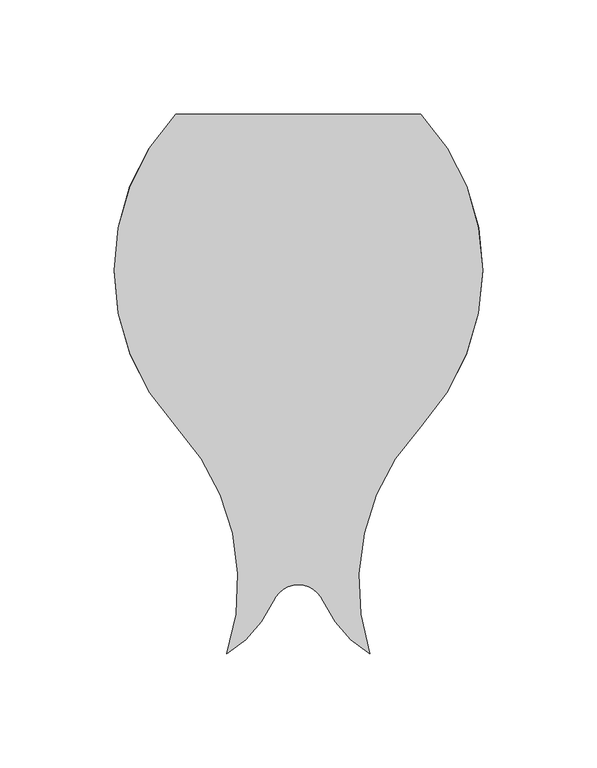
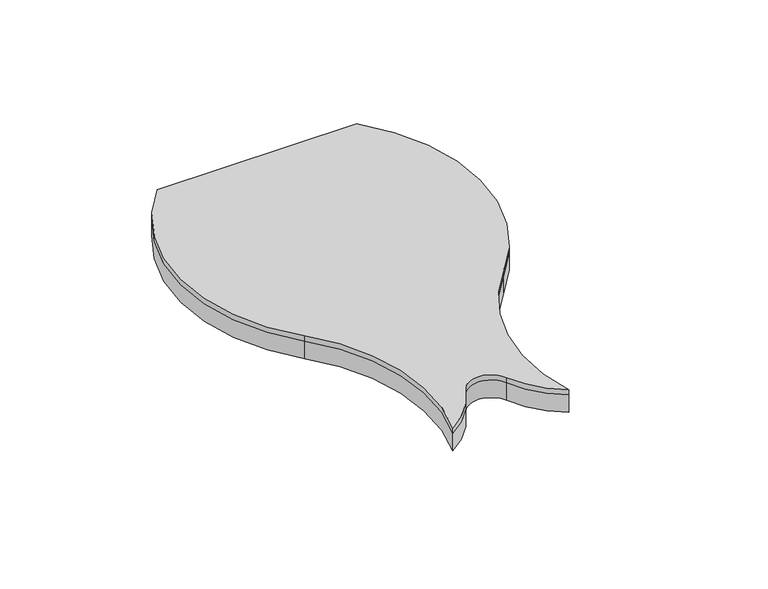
"""IFC4 building model written with IfcOpenShell, lengths in millimetres: proxy geometry, FilzFelt_Fish_Block : Fish Block."""

from ifc_helpers import new_model, si_unit, frame, origin, place, context, project, spatial, polyline, circle_curve, source, transform, mapped, element, save
from ifc_brep_helpers import plane_surface, cylinder_surface, revolved_surface, advanced_brep


def specialty_equipment_ba96d7a5(model_context):
    return source(origin(), model_context, "Body", "AdvancedBrep", [
        advanced_brep(
        [(53.5486457, -68.6120133, 10.0210937), (31.2619065, -168.1141956, 10.0210937), (11.0103348, -145.0347036, 10.0210937), (-11.0103348, -145.0347036, 10.0210937), (-31.2619065, -168.1141956, 10.0210937), (-53.5486457, -68.6120133, 10.0210937), (-53.7372709, 68.4105946, 10.0210937), (53.7372709, 68.4105946, 10.0210937), (-53.5486457, -68.6120133, 12.9976563), (-31.2619065, -168.1141956, 12.9976563), (-11.0103348, -145.0347036, 12.9976563), (11.0103348, -145.0347036, 12.9976563), (31.2619065, -168.1141956, 12.9976563), (53.5486457, -68.6120133, 12.9976563), (80.7142226, 0.0, 12.9976563), (53.7372709, 68.4105946, 12.9976563), (-53.7372709, 68.4105946, 12.9976563), (-80.7142226, 0.0, 12.9976563)],
        [
            (0, 1, circle_curve(frame((126.6124317, -137.2240266, 10.0210937), z_axis=(0.0, 0.0, 1.0), x_axis=(-1.0, 0.0, 0.0)), 100.2293629)),
            (1, 2, circle_curve(frame((57.9263497, -124.2921115, 10.0210937), z_axis=(0.0, 0.0, -1.0), x_axis=(-1.0, 0.0, 0.0)), 51.2968574)),
            (2, 3, circle_curve(frame((0.0, -149.9026124, 10.0210937), z_axis=(0.0, 0.0, 1.0), x_axis=(-1.0, 0.0, 0.0)), 12.0384388)),
            (3, 4, circle_curve(frame((-57.9263497, -124.2921115, 10.0210937), z_axis=(0.0, 0.0, -1.0), x_axis=(-1.0, 0.0, 0.0)), 51.2968574)),
            (4, 5, circle_curve(frame((-126.6124317, -137.2240266, 10.0210937), z_axis=(0.0, 0.0, 1.0), x_axis=(-1.0, 0.0, 0.0)), 100.2293629)),
            (5, 6, circle_curve(frame((19.5151403, 0.0, 10.0210937), z_axis=(0.0, 0.0, -1.0), x_axis=(-1.0, 0.0, 0.0)), 100.2293629)),
            (6, 7),
            (7, 0, circle_curve(frame((-19.5151403, 0.0, 10.0210937), z_axis=(0.0, 0.0, -1.0), x_axis=(-1.0, 0.0, 0.0)), 100.2293629)),
            (8, 9, circle_curve(frame((-126.6124317, -137.2240266, 12.9976563), z_axis=(0.0, 0.0, -1.0), x_axis=(-1.0, 0.0, 0.0)), 100.2293629)),
            (9, 10, circle_curve(frame((-57.9263497, -124.2921115, 12.9976563), z_axis=(0.0, 0.0, 1.0), x_axis=(-1.0, 0.0, 0.0)), 51.2968574)),
            (10, 11, circle_curve(frame((0.0, -149.9026124, 12.9976563), z_axis=(0.0, 0.0, -1.0), x_axis=(-1.0, 0.0, 0.0)), 12.0384388)),
            (11, 12, circle_curve(frame((57.9263497, -124.2921115, 12.9976563), z_axis=(0.0, 0.0, 1.0), x_axis=(-1.0, 0.0, 0.0)), 51.2968574)),
            (12, 13, circle_curve(frame((126.6124317, -137.2240266, 12.9976563), z_axis=(0.0, 0.0, -1.0), x_axis=(-1.0, 0.0, 0.0)), 100.2293629)),
            (13, 14, circle_curve(frame((-19.5151403, 0.0, 12.9976563), z_axis=(0.0, 0.0, 1.0), x_axis=(-1.0, 0.0, 0.0)), 100.2293629)),
            (14, 15, circle_curve(frame((-19.5151403, 0.0, 12.9976563), z_axis=(0.0, 0.0, 1.0), x_axis=(-1.0, 0.0, 0.0)), 100.2293629)),
            (15, 16),
            (16, 17, circle_curve(frame((19.5151403, 0.0, 12.9976563), z_axis=(0.0, 0.0, 1.0), x_axis=(-1.0, 0.0, 0.0)), 100.2293629)),
            (17, 8, circle_curve(frame((19.5151403, 0.0, 12.9976563), z_axis=(0.0, 0.0, 1.0), x_axis=(-1.0, 0.0, 0.0)), 100.2293629)),
            (13, 0),
            (7, 15),
            (12, 1),
            (11, 2),
            (10, 3),
            (9, 4),
            (8, 5),
            (16, 6),
        ],
        [
            plane_surface(frame((0.0, 0.0, 10.0210937), z_axis=(0.0, 0.0, -1.0), x_axis=(0.0, -1.0, 0.0))),
            plane_surface(frame((0.0, 0.0, 12.9976563), z_axis=(0.0, 0.0, 1.0), x_axis=(0.0, -1.0, 0.0))),
            cylinder_surface(frame((-19.5151403, 0.0, 10.0210937), z_axis=(0.0, 0.0, -1.0), x_axis=(-1.0, 0.0, 0.0)), 100.2293629),
            revolved_surface(polyline([(26.383068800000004, -137.2240266, 12.9976563), (26.383068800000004, -137.2240266, 10.0210937)]), (126.6124317, -137.2240266, 10.0210937), (0.0, 0.0, 1.0)),
            cylinder_surface(frame((57.9263497, -124.2921115, 10.0210937), z_axis=(0.0, 0.0, -1.0), x_axis=(-1.0, 0.0, 0.0)), 51.2968574),
            revolved_surface(polyline([(-12.0384388, -149.9026124, 12.9976563), (-12.0384388, -149.9026124, 10.0210937)]), (0.0, -149.9026124, 10.0210937), (0.0, 0.0, 1.0)),
            cylinder_surface(frame((-57.9263497, -124.2921115, 10.0210937), z_axis=(0.0, 0.0, -1.0), x_axis=(-1.0, 0.0, 0.0)), 51.2968574),
            revolved_surface(polyline([(-226.84179460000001, -137.2240266, 12.9976563), (-226.84179460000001, -137.2240266, 10.0210937)]), (-126.6124317, -137.2240266, 10.0210937), (0.0, 0.0, 1.0)),
            cylinder_surface(frame((19.5151403, 0.0, 10.0210937), z_axis=(0.0, 0.0, -1.0), x_axis=(-1.0, 0.0, 0.0)), 100.2293629),
            plane_surface(frame((-112.4642226, 68.4105946, 12.9976562), z_axis=(0.0, 1.0, 0.0), x_axis=(-1.0, 0.0, 0.0))),
        ],
        [
            (0, [[1, 2, 3, 4, 5, 6, 7, 8]]),
            (1, [[9, 10, 11, 12, 13, 14, 15, 16, 17, 18]]),
            (2, [[19, -8, 20, -15, -14]]),
            (3, [[-1, -19, -13, 21]]),
            (4, [[-2, -21, -12, 22]]),
            (5, [[-3, -22, -11, 23]]),
            (6, [[-4, -23, -10, 24]]),
            (7, [[-5, -24, -9, 25]]),
            (8, [[-25, -18, -17, 26, -6]]),
            (9, [[-7, -26, -16, -20]]),
        ],
    ),
        advanced_brep(
        [(31.2619065, -168.1141956, 0.0), (11.0103348, -145.0347036, 0.0), (-11.0103348, -145.0347036, 0.0), (-31.2619065, -168.1141956, 0.0), (-53.5486457, -68.6120133, 0.0), (-80.7142226, 0.0, 0.0), (-53.7372709, 68.4105946, 0.0), (53.7372709, 68.4105946, 0.0), (80.7142226, 0.0, 0.0), (53.5486457, -68.6120133, 0.0), (31.2619065, -168.1141956, 10.0210937), (53.5486457, -68.6120133, 10.0210937), (53.7372709, 68.4105946, 10.0210937), (-53.7372709, 68.4105946, 10.0210937), (-53.5486457, -68.6120133, 10.0210937), (-31.2619065, -168.1141956, 10.0210937), (-11.0103348, -145.0347036, 10.0210937), (11.0103348, -145.0347036, 10.0210937)],
        [
            (0, 1, circle_curve(frame((57.9263497, -124.2921115, 0.0), z_axis=(0.0, 0.0, -1.0), x_axis=(-1.0, 0.0, 0.0)), 51.2968574)),
            (1, 2, circle_curve(frame((0.0, -149.9026124, 0.0), z_axis=(0.0, 0.0, 1.0), x_axis=(-1.0, 0.0, 0.0)), 12.0384388)),
            (2, 3, circle_curve(frame((-57.9263497, -124.2921115, 0.0), z_axis=(0.0, 0.0, -1.0), x_axis=(-1.0, 0.0, 0.0)), 51.2968574)),
            (3, 4, circle_curve(frame((-126.6124317, -137.2240266, 0.0), z_axis=(0.0, 0.0, 1.0), x_axis=(-1.0, 0.0, 0.0)), 100.2293629)),
            (4, 5, circle_curve(frame((19.5151403, 0.0, 0.0), z_axis=(0.0, 0.0, -1.0), x_axis=(-1.0, 0.0, 0.0)), 100.2293629)),
            (5, 6, circle_curve(frame((19.5151403, 0.0, 0.0), z_axis=(0.0, 0.0, -1.0), x_axis=(-1.0, 0.0, 0.0)), 100.2293629)),
            (6, 7),
            (7, 8, circle_curve(frame((-19.5151403, 0.0, 0.0), z_axis=(0.0, 0.0, -1.0), x_axis=(-1.0, 0.0, 0.0)), 100.2293629)),
            (8, 9, circle_curve(frame((-19.5151403, 0.0, 0.0), z_axis=(0.0, 0.0, -1.0), x_axis=(-1.0, 0.0, 0.0)), 100.2293629)),
            (9, 0, circle_curve(frame((126.6124317, -137.2240266, 0.0), z_axis=(0.0, 0.0, 1.0), x_axis=(-1.0, 0.0, 0.0)), 100.2293629)),
            (10, 11, circle_curve(frame((126.6124317, -137.2240266, 10.0210937), z_axis=(0.0, 0.0, -1.0), x_axis=(-1.0, 0.0, 0.0)), 100.2293629)),
            (11, 12, circle_curve(frame((-19.5151403, 0.0, 10.0210937), z_axis=(0.0, 0.0, 1.0), x_axis=(-1.0, 0.0, 0.0)), 100.2293629)),
            (12, 13),
            (13, 14, circle_curve(frame((19.5151403, 0.0, 10.0210937), z_axis=(0.0, 0.0, 1.0), x_axis=(-1.0, 0.0, 0.0)), 100.2293629)),
            (14, 15, circle_curve(frame((-126.6124317, -137.2240266, 10.0210937), z_axis=(0.0, 0.0, -1.0), x_axis=(-1.0, 0.0, 0.0)), 100.2293629)),
            (15, 16, circle_curve(frame((-57.9263497, -124.2921115, 10.0210937), z_axis=(0.0, 0.0, 1.0), x_axis=(-1.0, 0.0, 0.0)), 51.2968574)),
            (16, 17, circle_curve(frame((0.0, -149.9026124, 10.0210937), z_axis=(0.0, 0.0, -1.0), x_axis=(-1.0, 0.0, 0.0)), 12.0384388)),
            (17, 10, circle_curve(frame((57.9263497, -124.2921115, 10.0210937), z_axis=(0.0, 0.0, 1.0), x_axis=(-1.0, 0.0, 0.0)), 51.2968574)),
            (0, 10),
            (17, 1),
            (16, 2),
            (15, 3),
            (14, 4),
            (13, 6),
            (11, 9),
            (7, 12),
        ],
        [
            plane_surface(frame((0.0, 0.0, 0.0), z_axis=(0.0, 0.0, -1.0), x_axis=(0.0, -1.0, 0.0))),
            plane_surface(frame((0.0, 0.0, 10.0210937), z_axis=(0.0, 0.0, 1.0), x_axis=(0.0, -1.0, 0.0))),
            cylinder_surface(frame((57.9263497, -124.2921115, 0.0), z_axis=(0.0, 0.0, -1.0), x_axis=(-1.0, 0.0, 0.0)), 51.2968574),
            revolved_surface(polyline([(-12.0384388, -149.9026124, 10.0210937), (-12.0384388, -149.9026124, 0.0)]), (0.0, -149.9026124, 0.0), (0.0, 0.0, 1.0)),
            cylinder_surface(frame((-57.9263497, -124.2921115, 0.0), z_axis=(0.0, 0.0, -1.0), x_axis=(-1.0, 0.0, 0.0)), 51.2968574),
            revolved_surface(polyline([(-226.84179460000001, -137.2240266, 10.0210937), (-226.84179460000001, -137.2240266, 0.0)]), (-126.6124317, -137.2240266, 0.0), (0.0, 0.0, 1.0)),
            cylinder_surface(frame((19.5151403, 0.0, 0.0), z_axis=(0.0, 0.0, -1.0), x_axis=(-1.0, 0.0, 0.0)), 100.2293629),
            cylinder_surface(frame((-19.5151403, 0.0, 0.0), z_axis=(0.0, 0.0, -1.0), x_axis=(-1.0, 0.0, 0.0)), 100.2293629),
            revolved_surface(polyline([(26.383068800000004, -137.2240266, 10.0210937), (26.383068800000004, -137.2240266, 0.0)]), (126.6124317, -137.2240266, 0.0), (0.0, 0.0, 1.0)),
            plane_surface(frame((-112.4642226, 68.4105946, 12.9976562), z_axis=(0.0, 1.0, 0.0), x_axis=(-1.0, 0.0, 0.0))),
        ],
        [
            (0, [[1, 2, 3, 4, 5, 6, 7, 8, 9, 10]]),
            (1, [[11, 12, 13, 14, 15, 16, 17, 18]]),
            (2, [[-1, 19, -18, 20]]),
            (3, [[-2, -20, -17, 21]]),
            (4, [[-3, -21, -16, 22]]),
            (5, [[-4, -22, -15, 23]]),
            (6, [[-23, -14, 24, -6, -5]]),
            (7, [[25, -9, -8, 26, -12]]),
            (8, [[-10, -25, -11, -19]]),
            (9, [[-7, -24, -13, -26]]),
        ],
    ),
    ])


if __name__ == "__main__":
    model = new_model("IFC4")
    model_context = context("Model", 3, world=origin())
    ifc_project = project(units=[si_unit("LENGTHUNIT", "METRE", prefix="MILLI")], contexts=[model_context])
    site = spatial("IfcSite", under=ifc_project)
    building = spatial("IfcBuilding", under=site)
    placement = place(None, origin())
    specialty_equipment_shape = specialty_equipment_ba96d7a5(model_context)
    element("IfcBuildingElementProxy", 1, Name="FilzFelt_Fish_Block : Fish Block", ObjectType="FilzFelt_Fish_Block : Fish Block", at=placement, inside=building, context=model_context, shape_type="MappedRepresentation", body=[
        mapped(specialty_equipment_shape, transform((0.0, 0.0, 0.0), x_axis=(1.0, 0.0, 0.0), y_axis=(0.0, 1.0, 0.0), z_axis=(0.0, 0.0, 1.0))),
    ])
    save(model, "model.ifc")
